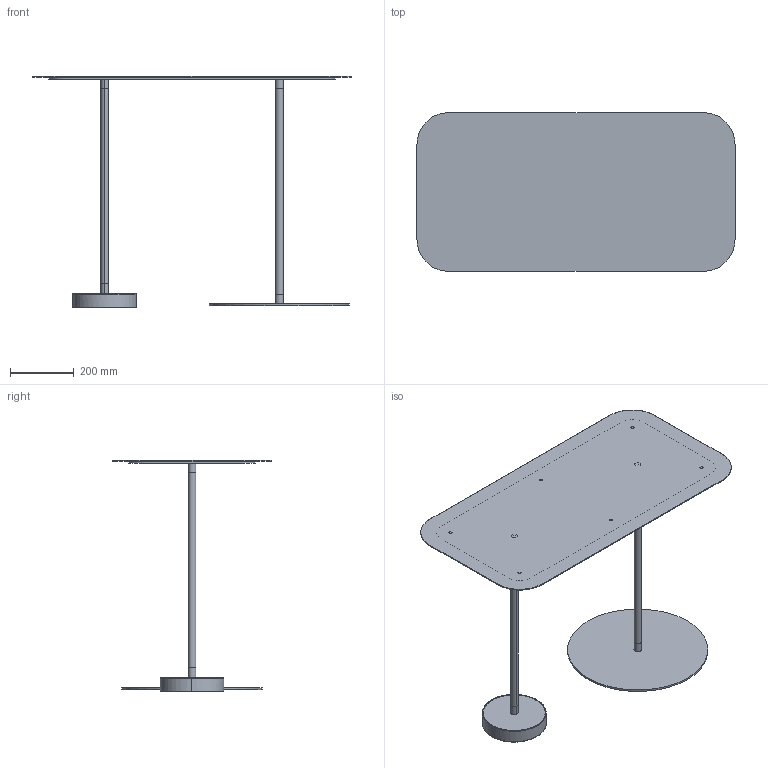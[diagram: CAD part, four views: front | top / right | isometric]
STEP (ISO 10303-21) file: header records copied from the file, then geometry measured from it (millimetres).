
FILE_DESCRIPTION (( 'STEP AP203' ), '1' );
FILE_NAME ('Bincan Desk 3D.STEP', '2013-01-24T11:33:08', ( 'Admin' ), ( '' ), 'SwSTEP 2.0', 'SolidWorks 2012', '' );
FILE_SCHEMA (( 'CONFIG_CONTROL_DESIGN' ));
Length unit declared in the file: millimetre
Products named in the file (1): Bincan Desk 3D
Bounding box: 998 x 498 x 725 mm (x, y, z)
Surface area: 2311264.5 mm2 (no closed solid volume)
Topology: 0 solids, 23 shells, 400 faces, 866 edges, 505 vertices
Faces by surface type: cylinder 166, plane 107, sphere 72, torus 28, bspline 15, cone 12
Entity records: 13571 total; most frequent: CARTESIAN_POINT 4835, DIRECTION 1982, ORIENTED_EDGE 1648, EDGE_CURVE 854, AXIS2_PLACEMENT_3D 832, VERTEX_POINT 505, CIRCLE 446, EDGE_LOOP 435
